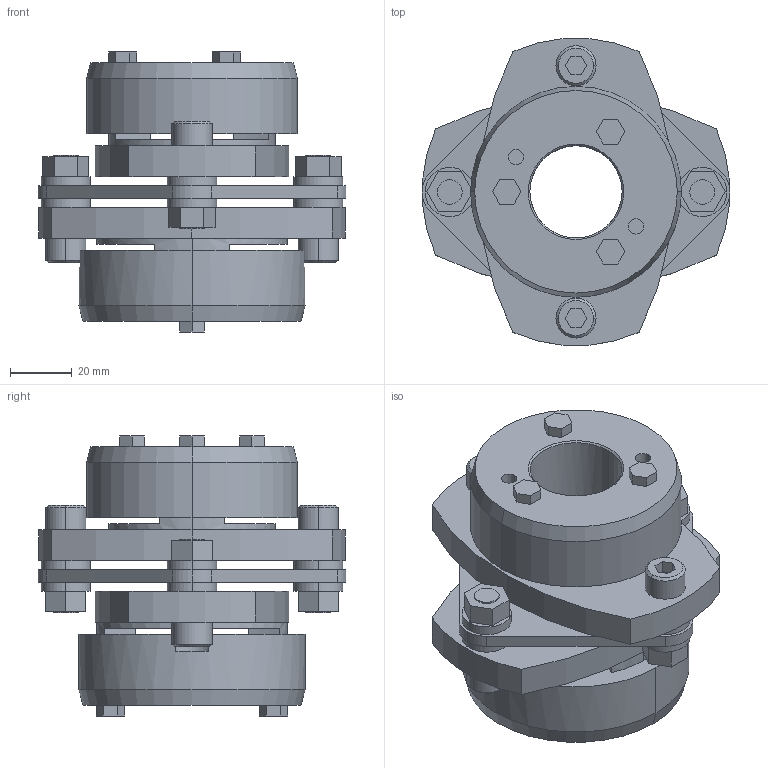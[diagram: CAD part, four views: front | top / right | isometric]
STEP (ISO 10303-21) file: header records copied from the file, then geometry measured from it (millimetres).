
FILE_DESCRIPTION((''),'2;1');
FILE_NAME('LCS-100T7-30×40.stp','2011-09-09T08:05:31',(''),(''),'AutoCAD STEP 2000i','AutoCAD 2000i',', , ');
FILE_SCHEMA(('CONFIG_CONTROL_DESIGN'));
Length unit declared in the file: millimetre
Products named in the file (11): LCS-100T7-30×38; 忣兜1; LC100T7-T038; LC100T7-T035; LC100T7-T030-1; LC100T7-T030; LC100T7-T025-1; LC100T7-T025; LC100T7-T022-1; LC100T7-T022; LCS100-ITA
Assembly tree (10 placements, depth 2):
  LCS-100T7-30×38
    忣兜1
    LC100T7-T038
    LC100T7-T035
    LC100T7-T030-1
    LC100T7-T030
    LC100T7-T025-1
    LC100T7-T025
    LC100T7-T022-1
    LC100T7-T022
    LCS100-ITA
Bounding box: 100 x 99.93 x 91 mm (x, y, z)
Volume: 261447.7 mm3; surface area: 65233.9 mm2
Topology: 1 solids, 1 shells, 229 faces, 562 edges, 368 vertices
Faces by surface type: plane 127, cylinder 82, cone 20
Entity records: 7051 total; most frequent: DIRECTION 1246, CARTESIAN_POINT 1170, ORIENTED_EDGE 1124, EDGE_CURVE 562, AXIS2_PLACEMENT_3D 444, VERTEX_POINT 368, VECTOR 358, LINE 358
